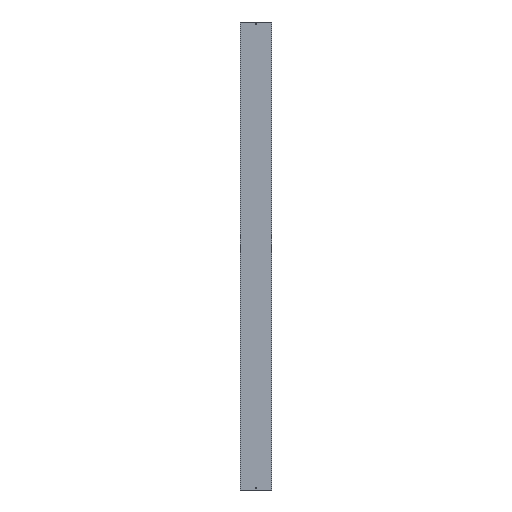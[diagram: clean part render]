
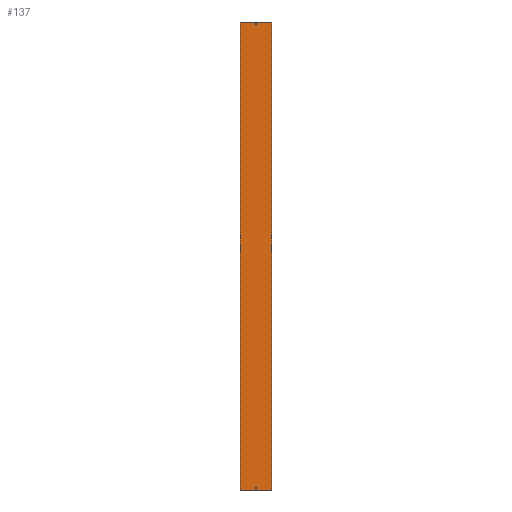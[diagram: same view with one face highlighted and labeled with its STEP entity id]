
A CAD part, front view. The second image highlights one B-rep face of the part: STEP entity #137.
In plain terms, the highlighted planar face has unit normal (0, -1, 0).
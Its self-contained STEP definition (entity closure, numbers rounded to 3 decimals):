
#1 = ORIENTED_EDGE ( 'NONE', *, *, #584, .F. ) ;
#3 = LINE ( 'NONE', #464, #425 ) ;
#5 = LINE ( 'NONE', #545, #437 ) ;
#12 = LINE ( 'NONE', #107, #289 ) ;
#15 = EDGE_CURVE ( 'NONE', #531, #130, #12, .T. ) ;
#18 = LINE ( 'NONE', #510, #421 ) ;
#19 = CARTESIAN_POINT ( 'NONE',  ( 3., -1., 1488.5 ) ) ;
#24 = CARTESIAN_POINT ( 'NONE',  ( 3., -1., -1488.5 ) ) ;
#30 = DIRECTION ( 'NONE',  ( -1., 0., 0. ) ) ;
#31 = EDGE_CURVE ( 'NONE', #409, #524, #3, .T. ) ;
#34 = ORIENTED_EDGE ( 'NONE', *, *, #15, .T. ) ;
#41 = LINE ( 'NONE', #534, #354 ) ;
#50 = VERTEX_POINT ( 'NONE', #371 ) ;
#58 = DIRECTION ( 'NONE',  ( 1., 0., 0. ) ) ;
#70 = FACE_BOUND ( 'NONE', #529, .T. ) ;
#74 = DIRECTION ( 'NONE',  ( 0., 0., -1. ) ) ;
#87 = VERTEX_POINT ( 'NONE', #200 ) ;
#90 = VERTEX_POINT ( 'NONE', #19 ) ;
#101 = VERTEX_POINT ( 'NONE', #24 ) ;
#105 = VERTEX_POINT ( 'NONE', #286 ) ;
#107 = CARTESIAN_POINT ( 'NONE',  ( -100., -1., 1500. ) ) ;
#108 = DIRECTION ( 'NONE',  ( -1., 0., 0. ) ) ;
#121 = DIRECTION ( 'NONE',  ( 0., 0., -1. ) ) ;
#126 = LINE ( 'NONE', #585, #498 ) ;
#130 = VERTEX_POINT ( 'NONE', #515 ) ;
#135 = ORIENTED_EDGE ( 'NONE', *, *, #284, .F. ) ;
#137 = ADVANCED_FACE ( 'NONE', ( #285, #466, #70 ), #569, .T. ) ;
#139 = EDGE_CURVE ( 'NONE', #87, #101, #565, .T. ) ;
#156 = CARTESIAN_POINT ( 'NONE',  ( 3., -1., 1500. ) ) ;
#158 = EDGE_LOOP ( 'NONE', ( #341, #271, #220, #483 ) ) ;
#168 = VECTOR ( 'NONE', #30, 1000. ) ;
#174 = CARTESIAN_POINT ( 'NONE',  ( -101., -1., -1488.5 ) ) ;
#175 = ORIENTED_EDGE ( 'NONE', *, *, #335, .T. ) ;
#178 = DIRECTION ( 'NONE',  ( -1., 0., 0. ) ) ;
#179 = VECTOR ( 'NONE', #287, 1000. ) ;
#181 = EDGE_CURVE ( 'NONE', #406, #409, #567, .T. ) ;
#200 = CARTESIAN_POINT ( 'NONE',  ( 3., -1., -1481.5 ) ) ;
#220 = ORIENTED_EDGE ( 'NONE', *, *, #363, .F. ) ;
#230 = DIRECTION ( 'NONE',  ( 0., 0., -1. ) ) ;
#232 = ORIENTED_EDGE ( 'NONE', *, *, #582, .T. ) ;
#248 = CARTESIAN_POINT ( 'NONE',  ( -3., -1., 1500. ) ) ;
#257 = CARTESIAN_POINT ( 'NONE',  ( 3., -1., 1500. ) ) ;
#271 = ORIENTED_EDGE ( 'NONE', *, *, #513, .F. ) ;
#274 = CARTESIAN_POINT ( 'NONE',  ( 3., -1., 1481.5 ) ) ;
#281 = CARTESIAN_POINT ( 'NONE',  ( -3., -1., 1500. ) ) ;
#284 = EDGE_CURVE ( 'NONE', #50, #105, #41, .T. ) ;
#285 = FACE_BOUND ( 'NONE', #158, .T. ) ;
#286 = CARTESIAN_POINT ( 'NONE',  ( 100., -1., -1500. ) ) ;
#287 = DIRECTION ( 'NONE',  ( 0., 0., -1. ) ) ;
#289 = VECTOR ( 'NONE', #230, 1000. ) ;
#296 = VERTEX_POINT ( 'NONE', #385 ) ;
#297 = EDGE_LOOP ( 'NONE', ( #1, #135, #232, #34 ) ) ;
#299 = ORIENTED_EDGE ( 'NONE', *, *, #484, .T. ) ;
#303 = CARTESIAN_POINT ( 'NONE',  ( -3., -1., -1488.5 ) ) ;
#316 = DIRECTION ( 'NONE',  ( -1., 0., 0. ) ) ;
#321 = CARTESIAN_POINT ( 'NONE',  ( -3., -1., 1481.5 ) ) ;
#335 = EDGE_CURVE ( 'NONE', #101, #572, #387, .T. ) ;
#341 = ORIENTED_EDGE ( 'NONE', *, *, #181, .F. ) ;
#354 = VECTOR ( 'NONE', #121, 1000. ) ;
#363 = EDGE_CURVE ( 'NONE', #524, #90, #530, .T. ) ;
#371 = CARTESIAN_POINT ( 'NONE',  ( 100., -1., 1500. ) ) ;
#372 = DIRECTION ( 'NONE',  ( 1., 0., 0. ) ) ;
#378 = DIRECTION ( 'NONE',  ( 0., -1., 0. ) ) ;
#385 = CARTESIAN_POINT ( 'NONE',  ( -3., -1., -1481.5 ) ) ;
#387 = LINE ( 'NONE', #174, #541 ) ;
#402 = CARTESIAN_POINT ( 'NONE',  ( -3., -1., 1488.5 ) ) ;
#406 = VERTEX_POINT ( 'NONE', #402 ) ;
#409 = VERTEX_POINT ( 'NONE', #321 ) ;
#418 = LINE ( 'NONE', #281, #476 ) ;
#420 = DIRECTION ( 'NONE',  ( 0., 0., -1. ) ) ;
#421 = VECTOR ( 'NONE', #108, 1000. ) ;
#425 = VECTOR ( 'NONE', #58, 1000. ) ;
#435 = DIRECTION ( 'NONE',  ( 0., 0., 1. ) ) ;
#437 = VECTOR ( 'NONE', #372, 1000. ) ;
#455 = LINE ( 'NONE', #477, #168 ) ;
#464 = CARTESIAN_POINT ( 'NONE',  ( -101., -1., 1481.5 ) ) ;
#466 = FACE_OUTER_BOUND ( 'NONE', #297, .T. ) ;
#469 = AXIS2_PLACEMENT_3D ( 'NONE', #522, #378, #420 ) ;
#476 = VECTOR ( 'NONE', #562, 1000. ) ;
#477 = CARTESIAN_POINT ( 'NONE',  ( -101., -1., 1500. ) ) ;
#481 = CARTESIAN_POINT ( 'NONE',  ( -100., -1., 1500. ) ) ;
#483 = ORIENTED_EDGE ( 'NONE', *, *, #31, .F. ) ;
#484 = EDGE_CURVE ( 'NONE', #296, #87, #5, .T. ) ;
#498 = VECTOR ( 'NONE', #316, 1000. ) ;
#503 = ORIENTED_EDGE ( 'NONE', *, *, #139, .T. ) ;
#510 = CARTESIAN_POINT ( 'NONE',  ( -101., -1., 1488.5 ) ) ;
#513 = EDGE_CURVE ( 'NONE', #90, #406, #18, .T. ) ;
#514 = EDGE_CURVE ( 'NONE', #572, #296, #418, .T. ) ;
#515 = CARTESIAN_POINT ( 'NONE',  ( -100., -1., -1500. ) ) ;
#518 = VECTOR ( 'NONE', #74, 1000. ) ;
#522 = CARTESIAN_POINT ( 'NONE',  ( -101., -1., 1500. ) ) ;
#524 = VERTEX_POINT ( 'NONE', #274 ) ;
#529 = EDGE_LOOP ( 'NONE', ( #175, #544, #299, #503 ) ) ;
#530 = LINE ( 'NONE', #257, #550 ) ;
#531 = VERTEX_POINT ( 'NONE', #481 ) ;
#534 = CARTESIAN_POINT ( 'NONE',  ( 100., -1., 1500. ) ) ;
#541 = VECTOR ( 'NONE', #178, 1000. ) ;
#544 = ORIENTED_EDGE ( 'NONE', *, *, #514, .T. ) ;
#545 = CARTESIAN_POINT ( 'NONE',  ( -101., -1., -1481.5 ) ) ;
#550 = VECTOR ( 'NONE', #435, 1000. ) ;
#562 = DIRECTION ( 'NONE',  ( 0., 0., 1. ) ) ;
#565 = LINE ( 'NONE', #156, #518 ) ;
#567 = LINE ( 'NONE', #248, #179 ) ;
#569 = PLANE ( 'NONE',  #469 ) ;
#572 = VERTEX_POINT ( 'NONE', #303 ) ;
#582 = EDGE_CURVE ( 'NONE', #50, #531, #455, .T. ) ;
#584 = EDGE_CURVE ( 'NONE', #105, #130, #126, .T. ) ;
#585 = CARTESIAN_POINT ( 'NONE',  ( -101., -1., -1500. ) ) ;
